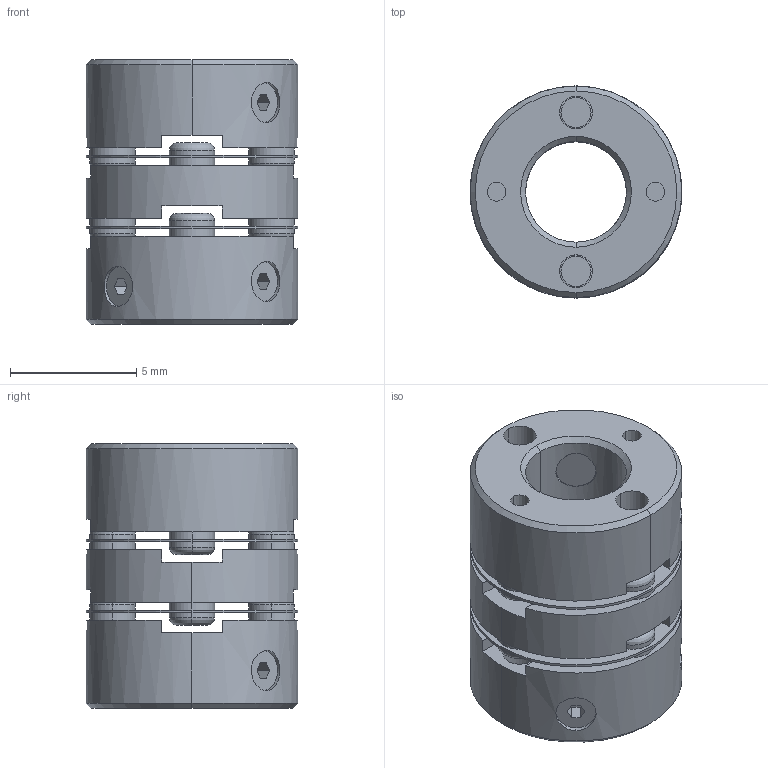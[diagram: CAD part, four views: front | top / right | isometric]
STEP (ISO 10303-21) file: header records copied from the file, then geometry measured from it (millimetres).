
FILE_DESCRIPTION((''),'2;1');
FILE_NAME('LAD-8.4-4×4.stp','2015-10-05T13:43:24',(''),(''),'AutoCAD STEP 2000i','AutoCAD 2000i',', , ');
FILE_SCHEMA(('CONFIG_CONTROL_DESIGN'));
Length unit declared in the file: millimetre
Products named in the file (7): LAD-8.4-4×4; 忣兜1; ﾊﾌﾞφ3-2; ﾊﾌﾞφ3-1; ﾊﾌﾞφ3; SET-M1.6亊2.5; LAD板ﾊﾞﾈ部
Assembly tree (7 placements, depth 2):
  LAD-8.4-4×4
    忣兜1
    ﾊﾌﾞφ3-2
    ﾊﾌﾞφ3-1
    ﾊﾌﾞφ3  x2
    SET-M1.6亊2.5
    LAD板ﾊﾞﾈ部
Bounding box: 8.4 x 8.4 x 10.5 mm (x, y, z)
Volume: 365 mm3; surface area: 827 mm2
Topology: 1 solids, 1 shells, 194 faces, 489 edges, 337 vertices
Faces by surface type: plane 86, cylinder 84, torus 16, cone 8
Entity records: 6330 total; most frequent: CARTESIAN_POINT 1286, DIRECTION 1098, ORIENTED_EDGE 944, EDGE_CURVE 472, AXIS2_PLACEMENT_3D 434, VERTEX_POINT 308, EDGE_LOOP 248, CIRCLE 232
